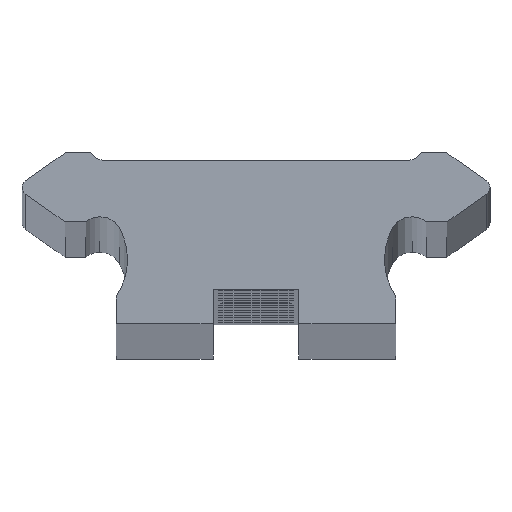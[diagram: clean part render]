
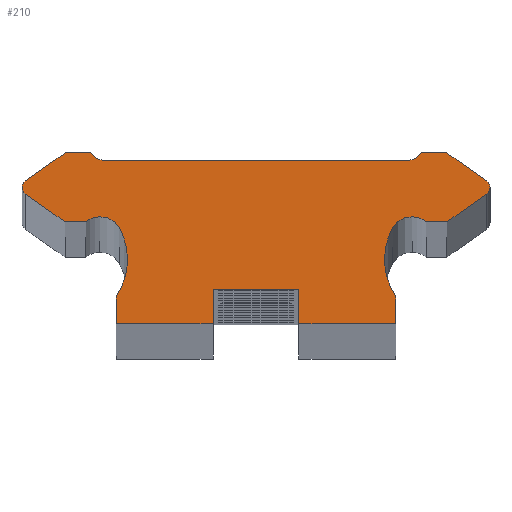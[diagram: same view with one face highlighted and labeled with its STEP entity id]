
A CAD part, top view. The second image highlights one B-rep face of the part: STEP entity #210.
In plain terms, the highlighted planar face has unit normal (0, 0, 1).
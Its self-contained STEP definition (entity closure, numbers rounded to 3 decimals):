
#210=ADVANCED_FACE('',(#546),#547,.T.);
#546=FACE_OUTER_BOUND('',#883,.T.);
#547=PLANE('',#884);
#883=EDGE_LOOP('',(#1916,#1917,#1918,#1919,#1920,#1921,#1922,#1923,#1924,#1925,#1926,#1927,#1928,#1929,#1930,#1931,#1932,#1933,#1934,#1935,#1936,#1937,#1938,#1939,#1940,#1941,#1942,#1943,#1944,#1945));
#884=AXIS2_PLACEMENT_3D('',#1946,#1947,#1948);
#1916=ORIENTED_EDGE('',*,*,#2250,.F.);
#1917=ORIENTED_EDGE('',*,*,#2322,.F.);
#1918=ORIENTED_EDGE('',*,*,#2319,.F.);
#1919=ORIENTED_EDGE('',*,*,#1985,.F.);
#1920=ORIENTED_EDGE('',*,*,#2317,.F.);
#1921=ORIENTED_EDGE('',*,*,#2314,.F.);
#1922=ORIENTED_EDGE('',*,*,#2311,.F.);
#1923=ORIENTED_EDGE('',*,*,#2308,.F.);
#1924=ORIENTED_EDGE('',*,*,#2305,.F.);
#1925=ORIENTED_EDGE('',*,*,#2302,.F.);
#1926=ORIENTED_EDGE('',*,*,#2299,.F.);
#1927=ORIENTED_EDGE('',*,*,#1987,.F.);
#1928=ORIENTED_EDGE('',*,*,#2298,.F.);
#1929=ORIENTED_EDGE('',*,*,#2294,.F.);
#1930=ORIENTED_EDGE('',*,*,#2291,.F.);
#1931=ORIENTED_EDGE('',*,*,#2288,.F.);
#1932=ORIENTED_EDGE('',*,*,#2285,.F.);
#1933=ORIENTED_EDGE('',*,*,#2282,.F.);
#1934=ORIENTED_EDGE('',*,*,#1993,.F.);
#1935=ORIENTED_EDGE('',*,*,#2280,.F.);
#1936=ORIENTED_EDGE('',*,*,#2277,.F.);
#1937=ORIENTED_EDGE('',*,*,#2274,.F.);
#1938=ORIENTED_EDGE('',*,*,#2271,.F.);
#1939=ORIENTED_EDGE('',*,*,#2268,.F.);
#1940=ORIENTED_EDGE('',*,*,#2265,.F.);
#1941=ORIENTED_EDGE('',*,*,#2262,.F.);
#1942=ORIENTED_EDGE('',*,*,#1995,.F.);
#1943=ORIENTED_EDGE('',*,*,#2261,.F.);
#1944=ORIENTED_EDGE('',*,*,#2257,.F.);
#1945=ORIENTED_EDGE('',*,*,#2254,.F.);
#1946=CARTESIAN_POINT('',(0.,8.774,1886.0));
#1947=DIRECTION('',(0.0,0.0,1.0));
#1948=DIRECTION('',(1.0,0.0,0.0));
#1985=EDGE_CURVE('',#2329,#2325,#2331,.T.);
#1987=EDGE_CURVE('',#2332,#2335,#2336,.T.);
#1993=EDGE_CURVE('',#2345,#2341,#2347,.T.);
#1995=EDGE_CURVE('',#2348,#2351,#2352,.T.);
#2250=EDGE_CURVE('',#2776,#2777,#2778,.T.);
#2254=EDGE_CURVE('',#2777,#2784,#2785,.T.);
#2257=EDGE_CURVE('',#2784,#2789,#2790,.T.);
#2261=EDGE_CURVE('',#2789,#2348,#2795,.T.);
#2262=EDGE_CURVE('',#2351,#2796,#2797,.T.);
#2265=EDGE_CURVE('',#2796,#2801,#2802,.T.);
#2268=EDGE_CURVE('',#2801,#2806,#2807,.T.);
#2271=EDGE_CURVE('',#2806,#2811,#2812,.T.);
#2274=EDGE_CURVE('',#2811,#2816,#2817,.T.);
#2277=EDGE_CURVE('',#2816,#2821,#2822,.T.);
#2280=EDGE_CURVE('',#2821,#2345,#2826,.T.);
#2282=EDGE_CURVE('',#2341,#2828,#2829,.T.);
#2285=EDGE_CURVE('',#2828,#2833,#2834,.T.);
#2288=EDGE_CURVE('',#2833,#2838,#2839,.T.);
#2291=EDGE_CURVE('',#2838,#2843,#2844,.T.);
#2294=EDGE_CURVE('',#2843,#2848,#2849,.T.);
#2298=EDGE_CURVE('',#2848,#2332,#2854,.T.);
#2299=EDGE_CURVE('',#2335,#2855,#2856,.T.);
#2302=EDGE_CURVE('',#2855,#2860,#2861,.T.);
#2305=EDGE_CURVE('',#2860,#2865,#2866,.T.);
#2308=EDGE_CURVE('',#2865,#2870,#2871,.T.);
#2311=EDGE_CURVE('',#2870,#2875,#2876,.T.);
#2314=EDGE_CURVE('',#2875,#2880,#2881,.T.);
#2317=EDGE_CURVE('',#2880,#2329,#2885,.T.);
#2319=EDGE_CURVE('',#2325,#2887,#2888,.T.);
#2322=EDGE_CURVE('',#2887,#2776,#2892,.T.);
#2325=VERTEX_POINT('',#2895);
#2329=VERTEX_POINT('',#2900);
#2331=CIRCLE('',#2903,0.76);
#2332=VERTEX_POINT('',#2904);
#2335=VERTEX_POINT('',#2908);
#2336=CIRCLE('',#2909,0.76);
#2341=VERTEX_POINT('',#2915);
#2345=VERTEX_POINT('',#2920);
#2347=CIRCLE('',#2923,6.105);
#2348=VERTEX_POINT('',#2924);
#2351=VERTEX_POINT('',#2928);
#2352=CIRCLE('',#2929,6.105);
#2776=VERTEX_POINT('',#3438);
#2777=VERTEX_POINT('',#3439);
#2778=LINE('',#3440,#3441);
#2784=VERTEX_POINT('',#3450);
#2785=CIRCLE('',#3451,2.275);
#2789=VERTEX_POINT('',#3456);
#2790=CIRCLE('',#3457,2.0);
#2795=CIRCLE('',#3463,6.105);
#2796=VERTEX_POINT('',#3464);
#2797=LINE('',#3465,#3466);
#2801=VERTEX_POINT('',#3472);
#2802=LINE('',#3473,#3474);
#2806=VERTEX_POINT('',#3480);
#2807=LINE('',#3481,#3482);
#2811=VERTEX_POINT('',#3488);
#2812=LINE('',#3489,#3490);
#2816=VERTEX_POINT('',#3496);
#2817=LINE('',#3497,#3498);
#2821=VERTEX_POINT('',#3504);
#2822=LINE('',#3505,#3506);
#2826=LINE('',#3512,#3513);
#2828=VERTEX_POINT('',#3516);
#2829=CIRCLE('',#3517,6.105);
#2833=VERTEX_POINT('',#3522);
#2834=CIRCLE('',#3523,2.0);
#2838=VERTEX_POINT('',#3528);
#2839=CIRCLE('',#3529,2.275);
#2843=VERTEX_POINT('',#3534);
#2844=LINE('',#3535,#3536);
#2848=VERTEX_POINT('',#3542);
#2849=LINE('',#3543,#3544);
#2854=CIRCLE('',#3551,0.76);
#2855=VERTEX_POINT('',#3552);
#2856=LINE('',#3553,#3554);
#2860=VERTEX_POINT('',#3560);
#2861=LINE('',#3561,#3562);
#2865=VERTEX_POINT('',#3568);
#2866=CIRCLE('',#3569,1.5);
#2870=VERTEX_POINT('',#3574);
#2871=LINE('',#3575,#3576);
#2875=VERTEX_POINT('',#3582);
#2876=CIRCLE('',#3583,1.5);
#2880=VERTEX_POINT('',#3588);
#2881=LINE('',#3589,#3590);
#2885=LINE('',#3596,#3597);
#2887=VERTEX_POINT('',#3600);
#2888=CIRCLE('',#3601,0.76);
#2892=LINE('',#3606,#3607);
#2895=CARTESIAN_POINT('',(21.805,12.7,1886.0));
#2900=CARTESIAN_POINT('',(21.481,13.323,1886.0));
#2903=AXIS2_PLACEMENT_3D('',#3615,#3616,#3617);
#2904=CARTESIAN_POINT('',(-21.805,12.7,1886.0));
#2908=CARTESIAN_POINT('',(-21.481,13.323,1886.0));
#2909=AXIS2_PLACEMENT_3D('',#3619,#3620,#3621);
#2915=CARTESIAN_POINT('',(-11.974,5.976,1886.0));
#2920=CARTESIAN_POINT('',(-13.0,2.589,1886.0));
#2923=AXIS2_PLACEMENT_3D('',#3631,#3632,#3633);
#2924=CARTESIAN_POINT('',(11.974,5.976,1886.0));
#2928=CARTESIAN_POINT('',(13.0,2.589,1886.0));
#2929=AXIS2_PLACEMENT_3D('',#3635,#3636,#3637);
#3438=CARTESIAN_POINT('',(17.786,9.49,1886.0));
#3439=CARTESIAN_POINT('',(15.87,9.49,1886.0));
#3440=CARTESIAN_POINT('',(15.87,9.49,1886.0));
#3441=VECTOR('',#4230,1.0);
#3450=CARTESIAN_POINT('',(14.56,9.964,1886.0));
#3451=AXIS2_PLACEMENT_3D('',#4234,#4235,#4236);
#3456=CARTESIAN_POINT('',(12.739,8.934,1886.0));
#3457=AXIS2_PLACEMENT_3D('',#4241,#4242,#4243);
#3463=AXIS2_PLACEMENT_3D('',#4251,#4252,#4253);
#3464=CARTESIAN_POINT('',(13.0,0.0,1886.0));
#3465=CARTESIAN_POINT('',(13.0,0.0,1886.0));
#3466=VECTOR('',#4254,1.0);
#3472=CARTESIAN_POINT('',(4.0,0.0,1886.0));
#3473=CARTESIAN_POINT('',(4.0,0.0,1886.0));
#3474=VECTOR('',#4257,1.0);
#3480=CARTESIAN_POINT('',(4.0,3.2,1886.0));
#3481=CARTESIAN_POINT('',(4.0,3.2,1886.0));
#3482=VECTOR('',#4260,1.0);
#3488=CARTESIAN_POINT('',(-4.0,3.2,1886.0));
#3489=CARTESIAN_POINT('',(-4.0,3.2,1886.0));
#3490=VECTOR('',#4263,1.0);
#3496=CARTESIAN_POINT('',(-4.0,0.0,1886.0));
#3497=CARTESIAN_POINT('',(-4.0,0.0,1886.0));
#3498=VECTOR('',#4266,1.0);
#3504=CARTESIAN_POINT('',(-13.0,0.0,1886.0));
#3505=CARTESIAN_POINT('',(-13.0,0.0,1886.0));
#3506=VECTOR('',#4269,1.0);
#3512=CARTESIAN_POINT('',(-13.0,0.0,1886.0));
#3513=VECTOR('',#4272,1.0);
#3516=CARTESIAN_POINT('',(-12.739,8.934,1886.0));
#3517=AXIS2_PLACEMENT_3D('',#4274,#4275,#4276);
#3522=CARTESIAN_POINT('',(-14.56,9.964,1886.0));
#3523=AXIS2_PLACEMENT_3D('',#4281,#4282,#4283);
#3528=CARTESIAN_POINT('',(-15.87,9.49,1886.0));
#3529=AXIS2_PLACEMENT_3D('',#4288,#4289,#4290);
#3534=CARTESIAN_POINT('',(-17.786,9.49,1886.0));
#3535=CARTESIAN_POINT('',(-17.786,9.49,1886.0));
#3536=VECTOR('',#4295,1.0);
#3542=CARTESIAN_POINT('',(-21.481,12.077,1886.0));
#3543=CARTESIAN_POINT('',(-21.481,12.077,1886.0));
#3544=VECTOR('',#4298,1.0);
#3551=AXIS2_PLACEMENT_3D('',#4304,#4305,#4306);
#3552=CARTESIAN_POINT('',(-17.786,15.91,1886.0));
#3553=CARTESIAN_POINT('',(-17.786,15.91,1886.0));
#3554=VECTOR('',#4307,1.0);
#3560=CARTESIAN_POINT('',(-15.41,15.91,1886.0));
#3561=CARTESIAN_POINT('',(-15.41,15.91,1886.0));
#3562=VECTOR('',#4310,1.0);
#3568=CARTESIAN_POINT('',(-14.141,15.21,1886.0));
#3569=AXIS2_PLACEMENT_3D('',#4313,#4314,#4315);
#3574=CARTESIAN_POINT('',(14.141,15.21,1886.0));
#3575=CARTESIAN_POINT('',(-14.141,15.21,1886.0));
#3576=VECTOR('',#4320,1.0);
#3582=CARTESIAN_POINT('',(15.41,15.91,1886.0));
#3583=AXIS2_PLACEMENT_3D('',#4323,#4324,#4325);
#3588=CARTESIAN_POINT('',(17.786,15.91,1886.0));
#3589=CARTESIAN_POINT('',(17.786,15.91,1886.0));
#3590=VECTOR('',#4330,1.0);
#3596=CARTESIAN_POINT('',(21.481,13.323,1886.0));
#3597=VECTOR('',#4333,1.0);
#3600=CARTESIAN_POINT('',(21.481,12.077,1886.0));
#3601=AXIS2_PLACEMENT_3D('',#4335,#4336,#4337);
#3606=CARTESIAN_POINT('',(17.786,9.49,1886.0));
#3607=VECTOR('',#4342,1.0);
#3615=CARTESIAN_POINT('',(21.045,12.7,1886.0));
#3616=DIRECTION('',(0.0,0.0,-1.0));
#3617=DIRECTION('',(1.0,0.0,0.0));
#3619=CARTESIAN_POINT('',(-21.045,12.7,1886.0));
#3620=DIRECTION('',(0.0,0.0,-1.0));
#3621=DIRECTION('',(1.0,0.0,0.0));
#3631=CARTESIAN_POINT('',(-18.08,5.976,1886.0));
#3632=DIRECTION('',(0.0,0.0,1.0));
#3633=DIRECTION('',(1.0,0.0,0.0));
#3635=CARTESIAN_POINT('',(18.08,5.976,1886.0));
#3636=DIRECTION('',(0.0,0.0,1.0));
#3637=DIRECTION('',(1.0,0.0,0.0));
#4230=DIRECTION('',(-1.0,-0.0,-0.0));
#4234=CARTESIAN_POINT('',(14.479,7.69,1886.0));
#4235=DIRECTION('',(0.0,0.0,1.0));
#4236=DIRECTION('',(1.0,0.0,0.0));
#4241=CARTESIAN_POINT('',(14.489,7.965,1886.0));
#4242=DIRECTION('',(0.0,0.0,1.0));
#4243=DIRECTION('',(1.0,0.0,0.0));
#4251=CARTESIAN_POINT('',(18.08,5.976,1886.0));
#4252=DIRECTION('',(0.0,0.0,1.0));
#4253=DIRECTION('',(1.0,0.0,0.0));
#4254=DIRECTION('',(0.,-1.0,-0.0));
#4257=DIRECTION('',(-1.0,-0.0,-0.0));
#4260=DIRECTION('',(0.0,1.0,0.0));
#4263=DIRECTION('',(-1.0,-0.0,-0.0));
#4266=DIRECTION('',(-0.0,-1.0,-0.0));
#4269=DIRECTION('',(-1.0,-0.0,-0.0));
#4272=DIRECTION('',(0.,1.0,0.0));
#4274=CARTESIAN_POINT('',(-18.08,5.976,1886.0));
#4275=DIRECTION('',(0.0,0.0,1.0));
#4276=DIRECTION('',(1.0,0.0,0.0));
#4281=CARTESIAN_POINT('',(-14.489,7.965,1886.0));
#4282=DIRECTION('',(0.0,0.0,1.0));
#4283=DIRECTION('',(1.0,0.0,0.0));
#4288=CARTESIAN_POINT('',(-14.479,7.69,1886.0));
#4289=DIRECTION('',(0.0,0.0,1.0));
#4290=DIRECTION('',(1.0,0.0,0.0));
#4295=DIRECTION('',(-1.0,-0.0,-0.0));
#4298=DIRECTION('',(-0.819,0.574,0.0));
#4304=CARTESIAN_POINT('',(-21.045,12.7,1886.0));
#4305=DIRECTION('',(0.0,0.0,-1.0));
#4306=DIRECTION('',(1.0,0.0,0.0));
#4307=DIRECTION('',(0.819,0.574,0.0));
#4310=DIRECTION('',(1.0,0.0,0.0));
#4313=CARTESIAN_POINT('',(-14.141,16.71,1886.0));
#4314=DIRECTION('',(0.0,0.0,1.0));
#4315=DIRECTION('',(1.0,0.0,0.0));
#4320=DIRECTION('',(1.0,0.0,0.0));
#4323=CARTESIAN_POINT('',(14.141,16.71,1886.0));
#4324=DIRECTION('',(0.0,0.0,1.0));
#4325=DIRECTION('',(1.0,0.0,0.0));
#4330=DIRECTION('',(1.0,0.0,0.0));
#4333=DIRECTION('',(0.819,-0.574,0.0));
#4335=CARTESIAN_POINT('',(21.045,12.7,1886.0));
#4336=DIRECTION('',(0.0,0.0,-1.0));
#4337=DIRECTION('',(1.0,0.0,0.0));
#4342=DIRECTION('',(-0.819,-0.574,-0.0));
